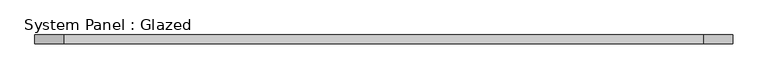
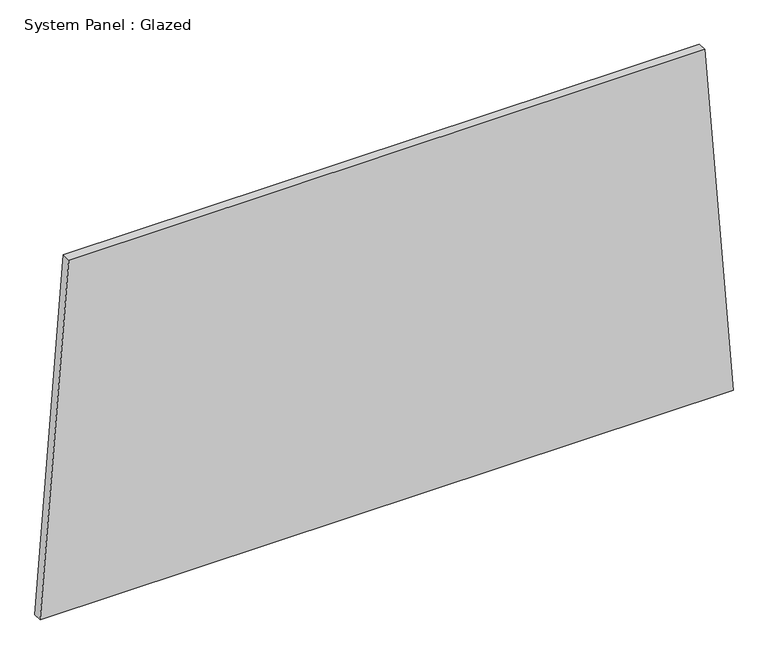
"""IFC4 building model written with IfcOpenShell, lengths in millimetres: plate geometry, System Panel : Glazed."""

from ifc_helpers import new_model, si_unit, frame, origin, place, context, project, spatial, polyline, outline, extrude, source, transform, mapped, element, save


def system_panel_glazed_2a1648c4(model_context):
    return source(origin(), model_context, "Body", "SweptSolid", [
        extrude(outline(polyline([(0.0, -995.1068735), (0.0, 995.1068735), (1063.6419132, 913.0817528), (1063.6419132, -913.0817528), (0.0, -995.1068735)])), frame((0.0, -44.45, 0.0), z_axis=(0.0, 1.0, 0.0), x_axis=(0.0, 0.0, 1.0)), (0.0, 0.0, 1.0), 25.4),
    ])


if __name__ == "__main__":
    model = new_model("IFC4")
    model_context = context("Model", 3, world=origin())
    ifc_project = project(units=[si_unit("LENGTHUNIT", "METRE", prefix="MILLI")], contexts=[model_context])
    site = spatial("IfcSite", under=ifc_project)
    building = spatial("IfcBuilding", under=site)
    placement = place(None, origin())
    system_panel_glazed_shape = system_panel_glazed_2a1648c4(model_context)
    element("IfcPlate", 1, ObjectType="System Panel : Glazed", at=placement, inside=building, context=model_context, shape_type="MappedRepresentation", body=[
        mapped(system_panel_glazed_shape, transform((0.0, 0.0, 0.0), x_axis=(1.0, 0.0, 0.0), y_axis=(0.0, 1.0, 0.0), z_axis=(0.0, 0.0, 1.0))),
    ])
    save(model, "model.ifc")
